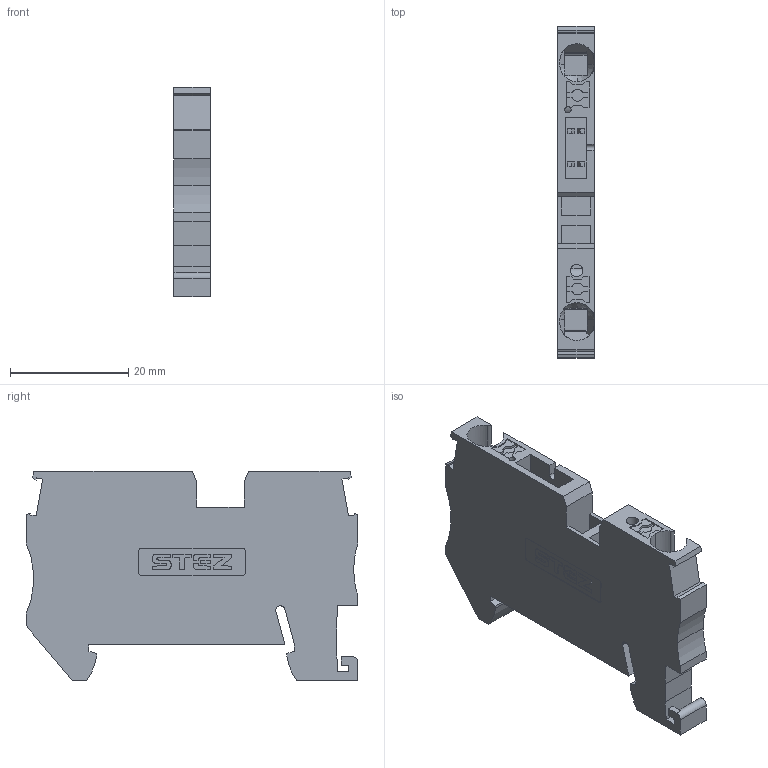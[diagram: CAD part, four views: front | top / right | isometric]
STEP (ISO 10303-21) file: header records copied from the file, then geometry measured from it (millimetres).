
FILE_DESCRIPTION(('TFLEX Exchange Step'),'2;1');
FILE_NAME('14200010_КНБ_4-2-ВСТ.stp', '2025-06-24T11:12:22+03:00',('MVarava'),('Unknown organisation'),'TFLEX Exchange 2023.0','T-FLEX CAD','Unknown authorisation');
FILE_SCHEMA( ('AUTOMOTIVE_DESIGN { 1 0 10303 214 1 1 1 1 }') );
Length unit declared in the file: millimetre
Products named in the file (1): Nodes
Bounding box: 6.15 x 56 x 35.35 mm (x, y, z)
Volume: 8437.8 mm3; surface area: 5882.9 mm2
Topology: 1 solids, 1 shells, 428 faces, 1233 edges, 821 vertices
Faces by surface type: plane 227, cylinder 193, cone 4, torus 4
Full cylindrical faces by diameter (mm): 1.1 x1, 2.1 x1
Entity records: 15352 total; most frequent: CARTESIAN_POINT 4045, ORIENTED_EDGE 2466, DIRECTION 2265, EDGE_CURVE 1233, VERTEX_POINT 821, AXIS2_PLACEMENT_3D 800, VECTOR 665, LINE 665
